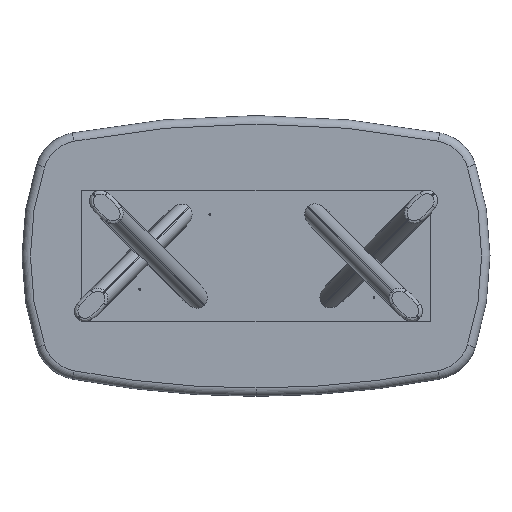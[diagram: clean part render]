
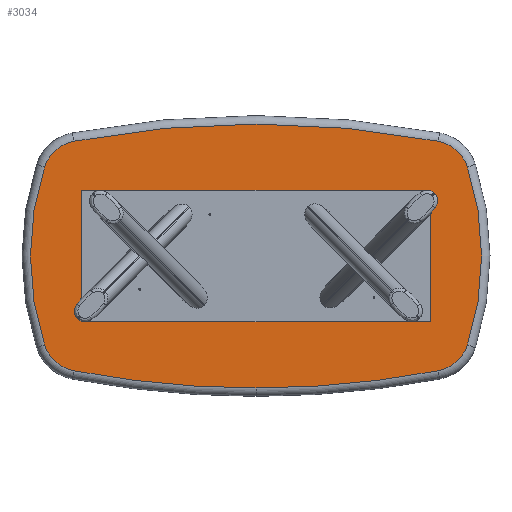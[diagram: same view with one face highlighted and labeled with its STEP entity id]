
A CAD part, front view. The second image highlights one B-rep face of the part: STEP entity #3034.
In plain terms, the highlighted planar face has unit normal (0, -1, 0).
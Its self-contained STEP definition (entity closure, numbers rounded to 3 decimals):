
#37 = CARTESIAN_POINT ( 'NONE',  ( 260., 40., 0. ) ) ;
#87 = CIRCLE ( 'NONE', #2743, 1224. ) ;
#89 = CIRCLE ( 'NONE', #1075, 164. ) ;
#108 = CARTESIAN_POINT ( 'NONE',  ( 778.12, 40., 490.651 ) ) ;
#118 = CARTESIAN_POINT ( 'NONE',  ( 0., 40., 3600. ) ) ;
#274 = EDGE_CURVE ( 'NONE', #3238, #4096, #386, .T. ) ;
#314 = DIRECTION ( 'NONE',  ( 0., 0., -1. ) ) ;
#319 = CIRCLE ( 'NONE', #2972, 164. ) ;
#379 = EDGE_CURVE ( 'NONE', #1902, #4305, #3503, .T. ) ;
#386 = CIRCLE ( 'NONE', #1284, 1224. ) ;
#500 = CARTESIAN_POINT ( 'NONE',  ( 903.347, 40., -380.525 ) ) ;
#505 = DIRECTION ( 'NONE',  ( 0., 0., -1. ) ) ;
#530 = CARTESIAN_POINT ( 'NONE',  ( -747.474, 40., 329.54 ) ) ;
#538 = VERTEX_POINT ( 'NONE', #1826 ) ;
#539 = AXIS2_PLACEMENT_3D ( 'NONE', #577, #2025, #2376 ) ;
#577 = CARTESIAN_POINT ( 'NONE',  ( 747.474, 40., -329.54 ) ) ;
#636 = CARTESIAN_POINT ( 'NONE',  ( 903.347, 40., 380.525 ) ) ;
#736 = CARTESIAN_POINT ( 'NONE',  ( 0., 40., -564. ) ) ;
#759 = AXIS2_PLACEMENT_3D ( 'NONE', #118, #3022, #2682 ) ;
#908 = CIRCLE ( 'NONE', #539, 164. ) ;
#918 = CARTESIAN_POINT ( 'NONE',  ( 778.12, 40., -490.651 ) ) ;
#926 = CARTESIAN_POINT ( 'NONE',  ( 747.474, 40., 329.54 ) ) ;
#993 = CARTESIAN_POINT ( 'NONE',  ( 0., 40., 3600. ) ) ;
#1049 = ORIENTED_EDGE ( 'NONE', *, *, #379, .T. ) ;
#1075 = AXIS2_PLACEMENT_3D ( 'NONE', #530, #1490, #1979 ) ;
#1133 = AXIS2_PLACEMENT_3D ( 'NONE', #993, #4347, #1803 ) ;
#1166 = DIRECTION ( 'NONE',  ( 0., 0., -1. ) ) ;
#1281 = FACE_OUTER_BOUND ( 'NONE', #2893, .T. ) ;
#1284 = AXIS2_PLACEMENT_3D ( 'NONE', #37, #2911, #314 ) ;
#1382 = CARTESIAN_POINT ( 'NONE',  ( -778.12, 40., -490.651 ) ) ;
#1461 = DIRECTION ( 'NONE',  ( 0., -1., 0. ) ) ;
#1478 = CARTESIAN_POINT ( 'NONE',  ( 373.737, 40., -1635.23 ) ) ;
#1490 = DIRECTION ( 'NONE',  ( 0., -1., 0. ) ) ;
#1561 = VERTEX_POINT ( 'NONE', #636 ) ;
#1583 = DIRECTION ( 'NONE',  ( 0., -1., 0. ) ) ;
#1589 = CIRCLE ( 'NONE', #4193, 4164. ) ;
#1613 = ORIENTED_EDGE ( 'NONE', *, *, #4119, .T. ) ;
#1615 = DIRECTION ( 'NONE',  ( 0., 0., -1. ) ) ;
#1665 = DIRECTION ( 'NONE',  ( 0., -1., 0. ) ) ;
#1803 = DIRECTION ( 'NONE',  ( 0., 0., -1. ) ) ;
#1804 = EDGE_CURVE ( 'NONE', #2531, #4074, #908, .T. ) ;
#1826 = CARTESIAN_POINT ( 'NONE',  ( -778.12, 40., 490.651 ) ) ;
#1875 = EDGE_CURVE ( 'NONE', #1561, #3352, #2652, .T. ) ;
#1902 = VERTEX_POINT ( 'NONE', #1382 ) ;
#1971 = CARTESIAN_POINT ( 'NONE',  ( -903.347, 40., -380.525 ) ) ;
#1979 = DIRECTION ( 'NONE',  ( 0., 0., -1. ) ) ;
#2025 = DIRECTION ( 'NONE',  ( 0., -1., 0. ) ) ;
#2099 = EDGE_CURVE ( 'NONE', #3352, #538, #1589, .T. ) ;
#2200 = CIRCLE ( 'NONE', #759, 4164. ) ;
#2211 = AXIS2_PLACEMENT_3D ( 'NONE', #1478, #3318, #3297 ) ;
#2343 = PLANE ( 'NONE',  #2211 ) ;
#2376 = DIRECTION ( 'NONE',  ( 0., 0., -1. ) ) ;
#2523 = ORIENTED_EDGE ( 'NONE', *, *, #1875, .T. ) ;
#2531 = VERTEX_POINT ( 'NONE', #918 ) ;
#2652 = CIRCLE ( 'NONE', #3044, 164. ) ;
#2682 = DIRECTION ( 'NONE',  ( 0., 0., -1. ) ) ;
#2743 = AXIS2_PLACEMENT_3D ( 'NONE', #4225, #3823, #4198 ) ;
#2794 = EDGE_CURVE ( 'NONE', #538, #3238, #89, .T. ) ;
#2824 = ORIENTED_EDGE ( 'NONE', *, *, #4043, .T. ) ;
#2856 = ORIENTED_EDGE ( 'NONE', *, *, #1804, .T. ) ;
#2893 = EDGE_LOOP ( 'NONE', ( #2856, #1613, #2523, #3917, #4050, #3522, #2824, #1049, #3502 ) ) ;
#2911 = DIRECTION ( 'NONE',  ( 0., -1., 0. ) ) ;
#2972 = AXIS2_PLACEMENT_3D ( 'NONE', #4451, #1461, #1166 ) ;
#3019 = CARTESIAN_POINT ( 'NONE',  ( -903.347, 40., 380.525 ) ) ;
#3022 = DIRECTION ( 'NONE',  ( 0., -1., 0. ) ) ;
#3034 = ADVANCED_FACE ( 'NONE', ( #1281 ), #2343, .T. ) ;
#3044 = AXIS2_PLACEMENT_3D ( 'NONE', #926, #1665, #1615 ) ;
#3079 = CARTESIAN_POINT ( 'NONE',  ( 0., 40., -3600. ) ) ;
#3238 = VERTEX_POINT ( 'NONE', #3019 ) ;
#3297 = DIRECTION ( 'NONE',  ( 0., 0., -1. ) ) ;
#3318 = DIRECTION ( 'NONE',  ( 0., -1., 0. ) ) ;
#3352 = VERTEX_POINT ( 'NONE', #108 ) ;
#3502 = ORIENTED_EDGE ( 'NONE', *, *, #3708, .T. ) ;
#3503 = CIRCLE ( 'NONE', #1133, 4164. ) ;
#3522 = ORIENTED_EDGE ( 'NONE', *, *, #274, .T. ) ;
#3708 = EDGE_CURVE ( 'NONE', #4305, #2531, #2200, .T. ) ;
#3823 = DIRECTION ( 'NONE',  ( 0., -1., 0. ) ) ;
#3917 = ORIENTED_EDGE ( 'NONE', *, *, #2099, .T. ) ;
#4043 = EDGE_CURVE ( 'NONE', #4096, #1902, #319, .T. ) ;
#4050 = ORIENTED_EDGE ( 'NONE', *, *, #2794, .T. ) ;
#4074 = VERTEX_POINT ( 'NONE', #500 ) ;
#4096 = VERTEX_POINT ( 'NONE', #1971 ) ;
#4119 = EDGE_CURVE ( 'NONE', #4074, #1561, #87, .T. ) ;
#4193 = AXIS2_PLACEMENT_3D ( 'NONE', #3079, #1583, #505 ) ;
#4198 = DIRECTION ( 'NONE',  ( 0., 0., -1. ) ) ;
#4225 = CARTESIAN_POINT ( 'NONE',  ( -260., 40., 0. ) ) ;
#4305 = VERTEX_POINT ( 'NONE', #736 ) ;
#4347 = DIRECTION ( 'NONE',  ( 0., -1., 0. ) ) ;
#4451 = CARTESIAN_POINT ( 'NONE',  ( -747.474, 40., -329.54 ) ) ;
